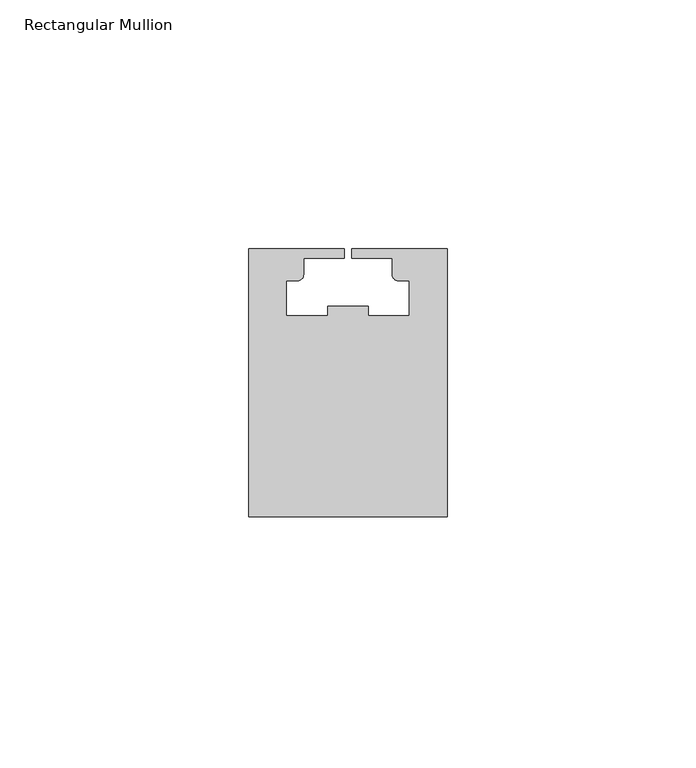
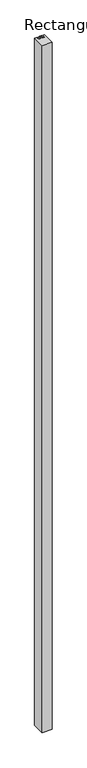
"""IFC4 building model written with IfcOpenShell, lengths in millimetres: member geometry, Rectangular Mullion : NLRS_21_CWM_drager SD.054_Storax."""

from ifc_helpers import new_model, si_unit, point, frame, frame_2d, origin, place, context, project, spatial, polyline, circle_curve, trimmed, segment, composite_curve, outline, extrude, source, transform, mapped, element, save


def rectangular_mullion_6cf2c509(model_context):
    return source(origin(), model_context, "Body", "SweptSolid", [
        extrude(outline(composite_curve([segment(polyline([(-20.0, -1.0), (-0.7528633, -1.0), (-0.7528633, -3.0), (-8.9220615, -3.0), (-8.9220615, -6.2788187)]), True, "CONTINUOUS"), segment(trimmed(circle_curve(frame_2d((-10.1231703, -6.2788187)), 1.2011087), [point((-8.9220615, -6.2788187))], [point((-10.1231703, -7.4799274))], False, "CARTESIAN"), True, "CONTINUOUS"), segment(polyline([(-10.1231703, -7.4799274), (-12.3724438, -7.4799274), (-12.3724438, -14.5683484), (-4.0479621, -14.5683484), (-4.0479621, -12.5683484), (4.0479621, -12.5683484), (4.0479621, -14.5683484), (12.3724438, -14.5683484), (12.3724438, -7.4799274), (10.1231703, -7.4799274)]), True, "CONTINUOUS"), segment(trimmed(circle_curve(frame_2d((10.1231703, -6.2788187)), 1.2011087), [point((10.1231703, -7.4799274))], [point((8.9220615, -6.2788187))], False, "CARTESIAN"), True, "CONTINUOUS"), segment(polyline([(8.9220615, -6.2788187), (8.9220615, -3.0), (0.7528633, -3.0), (0.7528633, -1.0), (20.0, -1.0), (20.0, -55.0), (-20.0, -55.0), (-20.0, -1.0)]), True, "CONTINUOUS")], self_intersect=False)), frame((0.0, 0.0, -3000.0), z_axis=(0.0, 0.0, 1.0), x_axis=(1.0, 0.0, 0.0)), (0.0, 0.0, 1.0), 3000.0),
    ])


if __name__ == "__main__":
    model = new_model("IFC4")
    model_context = context("Model", 3, world=origin())
    ifc_project = project(units=[si_unit("LENGTHUNIT", "METRE", prefix="MILLI")], contexts=[model_context])
    site = spatial("IfcSite", under=ifc_project)
    building = spatial("IfcBuilding", under=site)
    placement = place(None, origin())
    rectangular_mullion_shape = rectangular_mullion_6cf2c509(model_context)
    element("IfcMember", 1, ObjectType="Rectangular Mullion : NLRS_21_CWM_drager SD.054_Storax", at=placement, inside=building, context=model_context, shape_type="MappedRepresentation", body=[
        mapped(rectangular_mullion_shape, transform((0.0, 0.0, 0.0), x_axis=(1.0, 0.0, 0.0), y_axis=(0.0, 1.0, 0.0), z_axis=(0.0, 0.0, 1.0))),
    ])
    save(model, "model.ifc")
